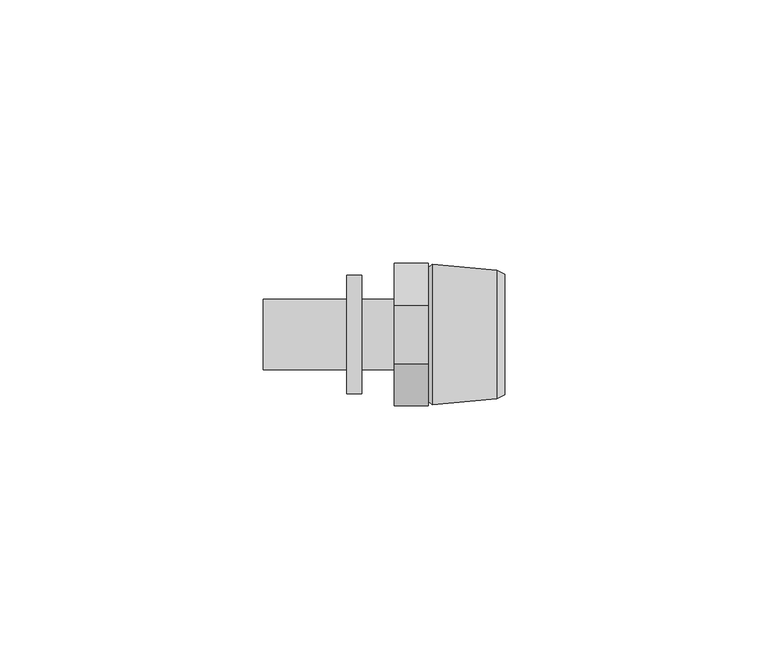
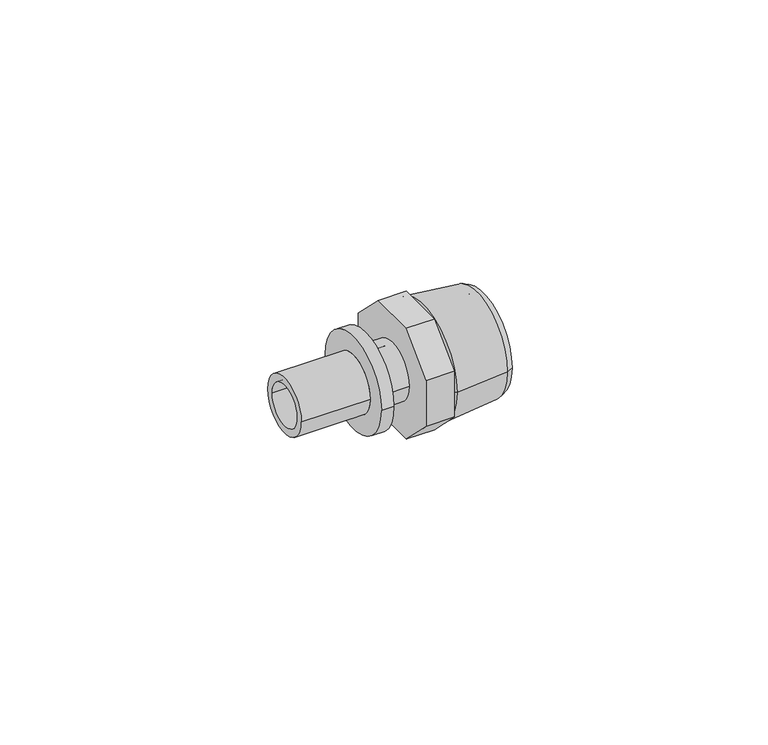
"""IFC4 building model written with IfcOpenShell, lengths in millimetres: pipe fitting geometry, RAUTITAN_Adapter_external_thread : RTI A external DE."""

from ifc_helpers import new_model, si_unit, frame, origin, place, context, project, spatial, polyline, circle_curve, outline, extrude, source, transform, mapped, element, save
from ifc_brep_helpers import plane_surface, cylinder_surface, revolved_surface, advanced_brep


def pipe_fitting_c4092dd8(model_context):
    return source(origin(), model_context, "Body", "SolidModel", [
        advanced_brep(
        [(-8.97, 6.725, 0.0), (-8.97, -6.725, 0.0), (-24.8, -6.725, 0.0), (-24.8, 6.725, 0.0), (-6.1, 11.25, 0.0), (-6.1, -11.25, 0.0), (-8.97, -11.25, 0.0), (-8.97, 11.25, 0.0), (-24.8, 4.95, 0.0), (-24.8, -4.95, 0.0), (0.0, -4.95, 0.0), (0.0, 4.95, 0.0), (0.0, 6.725, 0.0), (0.0, -6.725, 0.0), (-6.1, -6.725, 0.0), (-6.1, 6.725, 0.0)],
        [
            (0, 1, circle_curve(frame((-8.97, 0.0, 0.0), z_axis=(-1.0, 0.0, 0.0), x_axis=(0.0, -1.0, 0.0)), 6.725)),
            (1, 2),
            (2, 3, circle_curve(frame((-24.8, 0.0, 0.0), z_axis=(1.0, 0.0, 0.0), x_axis=(0.0, -1.0, 0.0)), 6.725)),
            (3, 0),
            (4, 5, circle_curve(frame((-6.1, 0.0, 0.0), z_axis=(-1.0, 0.0, 0.0), x_axis=(0.0, -1.0, 0.0)), 11.25)),
            (5, 6),
            (6, 7, circle_curve(frame((-8.97, 0.0, 0.0), z_axis=(1.0, 0.0, 0.0), x_axis=(0.0, -1.0, 0.0)), 11.25)),
            (7, 4),
            (8, 9, circle_curve(frame((-24.8, 0.0, 0.0), z_axis=(-1.0, 0.0, 0.0), x_axis=(0.0, -1.0, 0.0)), 4.95)),
            (9, 10),
            (10, 11, circle_curve(frame((0.0, 0.0, 0.0), z_axis=(1.0, 0.0, 0.0), x_axis=(0.0, -1.0, 0.0)), 4.95)),
            (11, 8),
            (2, 3, circle_curve(frame((-24.8, 0.0, 0.0), z_axis=(-1.0, 0.0, 0.0), x_axis=(0.0, 1.0, 0.0)), 6.725)),
            (8, 9, circle_curve(frame((-24.8, 0.0, 0.0), z_axis=(1.0, 0.0, 0.0), x_axis=(0.0, 1.0, 0.0)), 4.95)),
            (1, 0, circle_curve(frame((-8.97, 0.0, 0.0), z_axis=(-1.0, 0.0, 0.0), x_axis=(0.0, 1.0, 0.0)), 6.725)),
            (6, 7, circle_curve(frame((-8.97, 0.0, 0.0), z_axis=(-1.0, 0.0, 0.0), x_axis=(0.0, 1.0, 0.0)), 11.25)),
            (5, 4, circle_curve(frame((-6.1, 0.0, 0.0), z_axis=(-1.0, 0.0, 0.0), x_axis=(0.0, 1.0, 0.0)), 11.25)),
            (12, 13, circle_curve(frame((0.0, 0.0, 0.0), z_axis=(1.0, 0.0, 0.0), x_axis=(0.0, 1.0, 0.0)), 6.725)),
            (13, 12, circle_curve(frame((0.0, 0.0, 0.0), z_axis=(1.0, 0.0, 0.0), x_axis=(0.0, -1.0, 0.0)), 6.725)),
            (10, 11, circle_curve(frame((0.0, 0.0, 0.0), z_axis=(-1.0, 0.0, 0.0), x_axis=(0.0, 1.0, 0.0)), 4.95)),
            (13, 14),
            (14, 15, circle_curve(frame((-6.1, 0.0, 0.0), z_axis=(1.0, 0.0, 0.0), x_axis=(0.0, -1.0, 0.0)), 6.725)),
            (15, 12),
            (14, 15, circle_curve(frame((-6.1, 0.0, 0.0), z_axis=(-1.0, 0.0, 0.0), x_axis=(0.0, 1.0, 0.0)), 6.725)),
        ],
        [
            cylinder_surface(frame((0.0, 0.0, 0.0), z_axis=(1.0, 0.0, 0.0), x_axis=(0.0, -1.0, 0.0)), 6.725),
            cylinder_surface(frame((0.0, 0.0, 0.0), z_axis=(1.0, 0.0, 0.0), x_axis=(0.0, -1.0, 0.0)), 11.25),
            revolved_surface(polyline([(0.0, -4.95, 0.0), (-24.8, -4.95, 0.0)]), (0.0, 0.0, 0.0), (1.0, 0.0, 0.0)),
            plane_surface(frame((-24.8, 0.0, 0.0), z_axis=(-1.0, 0.0, 0.0), x_axis=(0.0, 1.0, 0.0))),
            cylinder_surface(frame((0.0, 0.0, 0.0), z_axis=(1.0, 0.0, 0.0), x_axis=(0.0, 1.0, 0.0)), 6.725),
            plane_surface(frame((-8.97, 0.0, 0.0), z_axis=(-1.0, 0.0, 0.0), x_axis=(0.0, 1.0, 0.0))),
            cylinder_surface(frame((0.0, 0.0, 0.0), z_axis=(1.0, 0.0, 0.0), x_axis=(0.0, 1.0, 0.0)), 11.25),
            plane_surface(frame((0.0, 0.0, 0.0), z_axis=(1.0, 0.0, 0.0), x_axis=(0.0, 1.0, 0.0))),
            revolved_surface(polyline([(0.0, 4.95, 0.0), (-24.8, 4.95, 0.0)]), (0.0, 0.0, 0.0), (1.0, 0.0, 0.0)),
            plane_surface(frame((-6.1, 0.0, 0.0), z_axis=(1.0, 0.0, 0.0), x_axis=(0.0, 1.0, 0.0))),
        ],
        [
            (0, [[1, 2, 3, 4]]),
            (1, [[5, 6, 7, 8]]),
            (2, [[9, 10, 11, 12]]),
            (3, [[13, -3], [14, -9]]),
            (4, [[15, -4, -13, -2]]),
            (5, [[16, -7], [-15, -1]]),
            (6, [[17, -8, -16, -6]]),
            (7, [[18, 19], [20, -11]]),
            (8, [[-14, -12, -20, -10]]),
            (0, [[-19, 21, 22, 23]]),
            (9, [[-17, -5], [24, -22]]),
            (4, [[-18, -23, -24, -21]]),
        ],
    ),
        advanced_brep(
        [(7.6032803, 9.5, 0.0), (7.6032803, -9.5, 0.0), (21.0, -9.5, 0.0), (21.0, 9.5, 0.0), (6.5, 8.3967197, 0.0), (6.5, -8.3967197, 0.0), (7.2406902, 13.29, 0.0), (7.2406902, -13.29, 0.0), (6.5, -12.7, 0.0), (6.5, 12.7, 0.0), (19.5000007, 12.16, 0.0), (19.5000007, -12.16, 0.0), (21.0, 11.425, 0.0), (21.0, -11.425, 0.0)],
        [
            (0, 1, circle_curve(frame((7.6032803, 0.0, 0.0), z_axis=(-1.0, 0.0, 0.0), x_axis=(0.0, -1.0, 0.0)), 9.5)),
            (1, 2),
            (2, 3, circle_curve(frame((21.0, 0.0, 0.0), z_axis=(1.0, 0.0, 0.0), x_axis=(0.0, -1.0, 0.0)), 9.5)),
            (3, 0),
            (4, 5, circle_curve(frame((6.5, 0.0, 0.0), z_axis=(-1.0, 0.0, 0.0), x_axis=(0.0, -1.0, 0.0)), 8.3967197)),
            (5, 1),
            (0, 4),
            (6, 7, circle_curve(frame((7.2406902, 0.0, 0.0), z_axis=(-1.0, 0.0, 0.0), x_axis=(0.0, -1.0, 0.0)), 13.29)),
            (7, 8),
            (8, 9, circle_curve(frame((6.5, 0.0, 0.0), z_axis=(1.0, 0.0, 0.0), x_axis=(0.0, -1.0, 0.0)), 12.7)),
            (9, 6),
            (10, 11, circle_curve(frame((19.5000007, 0.0, 0.0), z_axis=(-1.0, 0.0, 0.0), x_axis=(0.0, -1.0, 0.0)), 12.16)),
            (11, 7),
            (6, 10),
            (12, 13, circle_curve(frame((21.0, 0.0, 0.0), z_axis=(-1.0, 0.0, 0.0), x_axis=(0.0, -1.0, 0.0)), 11.425)),
            (13, 11),
            (10, 12),
            (1, 0, circle_curve(frame((7.6032803, 0.0, 0.0), z_axis=(-1.0, 0.0, 0.0), x_axis=(0.0, 1.0, 0.0)), 9.5)),
            (3, 2, circle_curve(frame((21.0, 0.0, 0.0), z_axis=(1.0, 0.0, 0.0), x_axis=(0.0, 1.0, 0.0)), 9.5)),
            (5, 4, circle_curve(frame((6.5, 0.0, 0.0), z_axis=(-1.0, 0.0, 0.0), x_axis=(0.0, 1.0, 0.0)), 8.3967197)),
            (8, 9, circle_curve(frame((6.5, 0.0, 0.0), z_axis=(-1.0, 0.0, 0.0), x_axis=(0.0, 1.0, 0.0)), 12.7)),
            (7, 6, circle_curve(frame((7.2406902, 0.0, 0.0), z_axis=(-1.0, 0.0, 0.0), x_axis=(0.0, 1.0, 0.0)), 13.29)),
            (11, 10, circle_curve(frame((19.5000007, 0.0, 0.0), z_axis=(-1.0, 0.0, 0.0), x_axis=(0.0, 1.0, 0.0)), 12.16)),
            (13, 12, circle_curve(frame((21.0, 0.0, 0.0), z_axis=(-1.0, 0.0, 0.0), x_axis=(0.0, 1.0, 0.0)), 11.425)),
        ],
        [
            revolved_surface(polyline([(21.0, -9.5, 0.0), (7.6032803, -9.5, 0.0)]), (0.0, 0.0, 0.0), (1.0, 0.0, 0.0)),
            revolved_surface(polyline([(7.6032803, -9.5, 0.0), (6.5, -8.3967197, 0.0)]), (0.0, 0.0, 0.0), (1.0, 0.0, 0.0)),
            revolved_surface(polyline([(6.5, -12.7, 0.0), (7.2406902, -13.29, 0.0)]), (0.0, 0.0, 0.0), (1.0, 0.0, 0.0)),
            revolved_surface(polyline([(7.2406902, -13.29, 0.0), (19.5000007, -12.16, 0.0)]), (0.0, 0.0, 0.0), (1.0, 0.0, 0.0)),
            revolved_surface(polyline([(19.5000007, -12.16, 0.0), (21.0, -11.425, 0.0)]), (0.0, 0.0, 0.0), (1.0, 0.0, 0.0)),
            revolved_surface(polyline([(21.0, 9.5, 0.0), (7.6032803, 9.5, 0.0)]), (0.0, 0.0, 0.0), (1.0, 0.0, 0.0)),
            revolved_surface(polyline([(7.6032803, 9.5, 0.0), (6.5, 8.3967197, 0.0)]), (0.0, 0.0, 0.0), (1.0, 0.0, 0.0)),
            plane_surface(frame((6.5, 0.0, 0.0), z_axis=(-1.0, 0.0, 0.0), x_axis=(0.0, 1.0, 0.0))),
            revolved_surface(polyline([(6.5, 12.7, 0.0), (7.2406902, 13.29, 0.0)]), (0.0, 0.0, 0.0), (1.0, 0.0, 0.0)),
            revolved_surface(polyline([(7.2406902, 13.29, 0.0), (19.5000007, 12.16, 0.0)]), (0.0, 0.0, 0.0), (1.0, 0.0, 0.0)),
            revolved_surface(polyline([(19.5000007, 12.16, 0.0), (21.0, 11.425, 0.0)]), (0.0, 0.0, 0.0), (1.0, 0.0, 0.0)),
            plane_surface(frame((21.0, 0.0, 0.0), z_axis=(1.0, 0.0, 0.0), x_axis=(0.0, 1.0, 0.0))),
        ],
        [
            (0, [[1, 2, 3, 4]]),
            (1, [[5, 6, -1, 7]]),
            (2, [[8, 9, 10, 11]]),
            (3, [[12, 13, -8, 14]]),
            (4, [[15, 16, -12, 17]]),
            (5, [[18, -4, 19, -2]]),
            (6, [[20, -7, -18, -6]]),
            (7, [[21, -10], [-20, -5]]),
            (8, [[22, -11, -21, -9]]),
            (9, [[23, -14, -22, -13]]),
            (10, [[24, -17, -23, -16]]),
            (11, [[-24, -15], [-19, -3]]),
        ],
    ),
        extrude(outline(polyline([(-13.5, 5.5918831), (-5.5918831, 13.5), (5.5918831, 13.5), (13.5, 5.5918831), (13.5, -5.5918831), (5.5918831, -13.5), (-5.5918831, -13.5), (-13.5, -5.5918831), (-13.5, 5.5918831)])), frame((0.0, 0.0, 0.0), z_axis=(1.0, 0.0, 0.0), x_axis=(0.0, 1.0, 0.0)), (0.0, 0.0, 1.0), 6.5),
    ])


if __name__ == "__main__":
    model = new_model("IFC4")
    model_context = context("Model", 3, world=origin())
    ifc_project = project(units=[si_unit("LENGTHUNIT", "METRE", prefix="MILLI")], contexts=[model_context])
    site = spatial("IfcSite", under=ifc_project)
    building = spatial("IfcBuilding", under=site)
    placement = place(None, origin())
    pipe_fitting_shape = pipe_fitting_c4092dd8(model_context)
    element("IfcPipeFitting", 1, ObjectType="RAUTITAN_Adapter_external_thread : RTI A external DE", at=placement, inside=building, context=model_context, shape_type="MappedRepresentation", body=[
        mapped(pipe_fitting_shape, transform((0.0, 0.0, 0.0), x_axis=(1.0, 0.0, 0.0), y_axis=(0.0, 1.0, 0.0), z_axis=(0.0, 0.0, 1.0))),
    ])
    save(model, "model.ifc")
